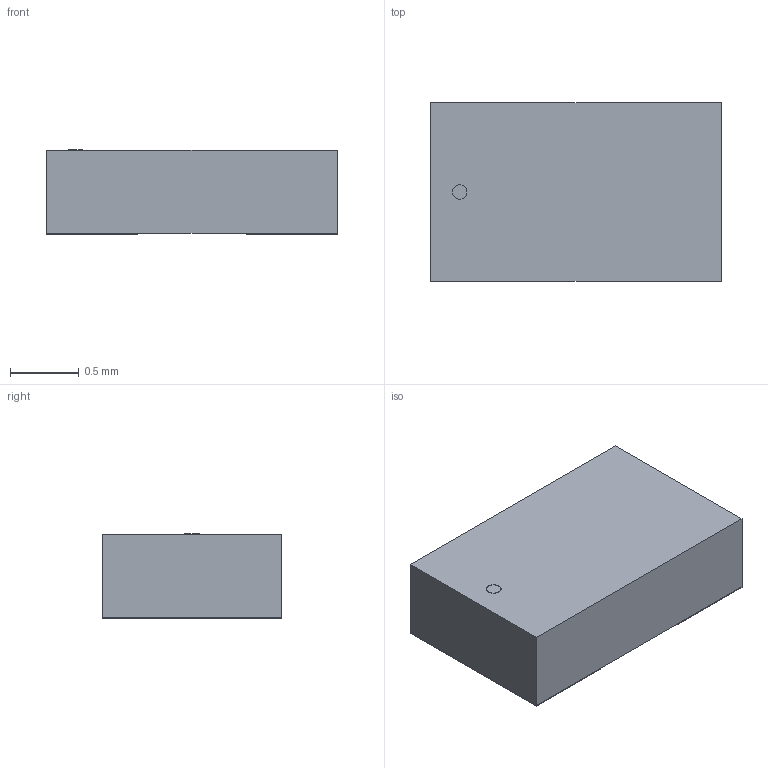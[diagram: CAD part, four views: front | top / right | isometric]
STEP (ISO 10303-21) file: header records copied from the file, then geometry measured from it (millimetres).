
FILE_DESCRIPTION(('STEP AP214'),'1');
FILE_NAME('XTAL_9HT11_TXC','2026-09-26T12:52:02',(''),(''),'','','');
FILE_SCHEMA(('AUTOMOTIVE_DESIGN'));
Length unit declared in the file: millimetre
Products named in the file (1): product
Bounding box: 2.11 x 1.3 x 0.61 mm (x, y, z)
Volume: 1.7 mm3; surface area: 13.1 mm2
Topology: 4 solids, 4 shells, 21 faces, 39 edges, 26 vertices
Faces by surface type: plane 20, cylinder 1
Full cylindrical faces by diameter (mm): 0.105 x1
Entity records: 661 total; most frequent: DIRECTION 86, ORIENTED_EDGE 76, CARTESIAN_POINT 51, EDGE_CURVE 38, LINE 36, VECTOR 36, VERTEX_POINT 26, AXIS2_PLACEMENT_3D 25
